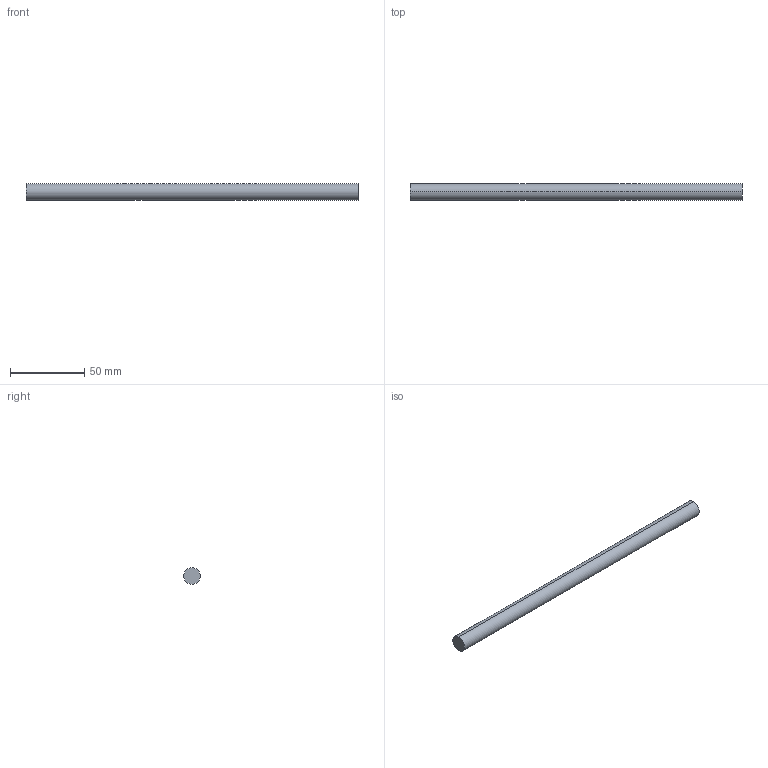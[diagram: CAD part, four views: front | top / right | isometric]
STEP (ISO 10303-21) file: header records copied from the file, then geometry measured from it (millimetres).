
FILE_DESCRIPTION (( 'STEP AP214' ), '1' );
FILE_NAME ('Querreling_2S-Rel_7102_25mm-Halter_KAB-350.step', '2010-09-22T15:06:02', ( 'grass' ), ( '' ), 'SwSTEP 2.0', 'SolidWorks 2010', '' );
FILE_SCHEMA (( 'AUTOMOTIVE_DESIGN' ));
Length unit declared in the file: millimetre
Products named in the file (1): Querreling_2S-Rel_7102_25mm-Halter_KAB-350
Bounding box: 224 x 11 x 11 mm (x, y, z)
Volume: 21287.4 mm3; surface area: 7931 mm2
Topology: 1 solids, 1 shells, 4 faces, 6 edges, 4 vertices
Faces by surface type: cylinder 2, plane 2
Entity records: 128 total; most frequent: DIRECTION 20, CARTESIAN_POINT 15, ORIENTED_EDGE 12, AXIS2_PLACEMENT_3D 9, EDGE_CURVE 6, EDGE_LOOP 4, FACE_OUTER_BOUND 4, CIRCLE 4
